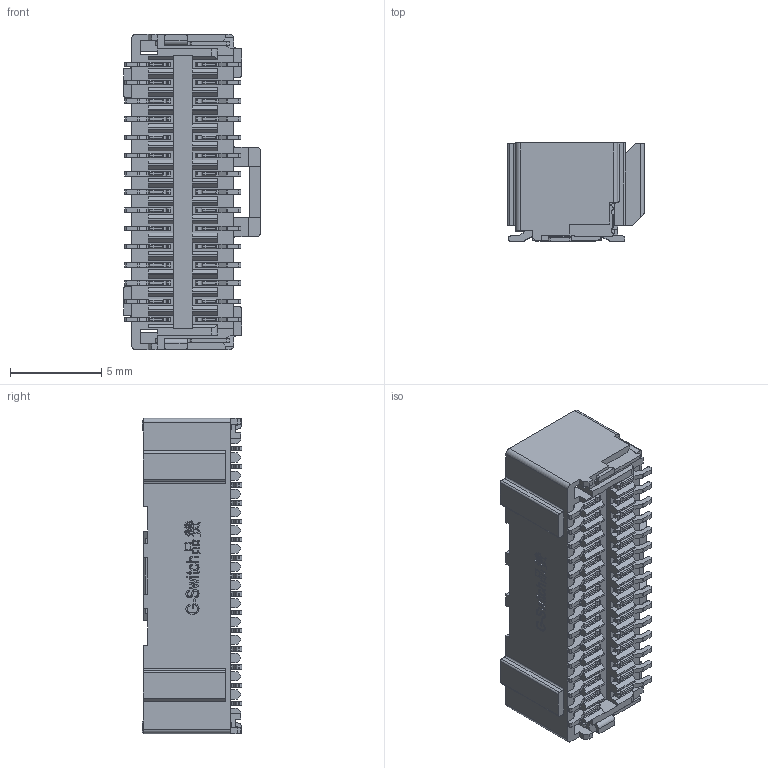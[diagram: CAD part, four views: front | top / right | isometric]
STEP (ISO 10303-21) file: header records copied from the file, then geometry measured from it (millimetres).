
FILE_DESCRIPTION (( 'STEP AP203' ), '1' );
FILE_NAME ('GT-A1008WVS-230S1101.STEP', '2024-11-06T02:43:52', ( '' ), ( '' ), 'SwSTEP 2.0', 'SolidWorks 2020', '' );
FILE_SCHEMA (( 'CONFIG_CONTROL_DESIGN' ));
Length unit declared in the file: millimetre
Products named in the file (1): GT-A1008WVS-230S1101
Bounding box: 7.5 x 5.45 x 17.3 mm (x, y, z)
Volume: 190.3 mm3; surface area: 887.8 mm2
Topology: 1 solids, 1 shells, 1980 faces, 5521 edges, 3616 vertices
Faces by surface type: plane 1415, cylinder 494, bspline 71
Entity records: 67088 total; most frequent: CARTESIAN_POINT 16999, ORIENTED_EDGE 11042, DIRECTION 9431, EDGE_CURVE 5521, VECTOR 4127, LINE 4127, VERTEX_POINT 3616, AXIS2_PLACEMENT_3D 2652
